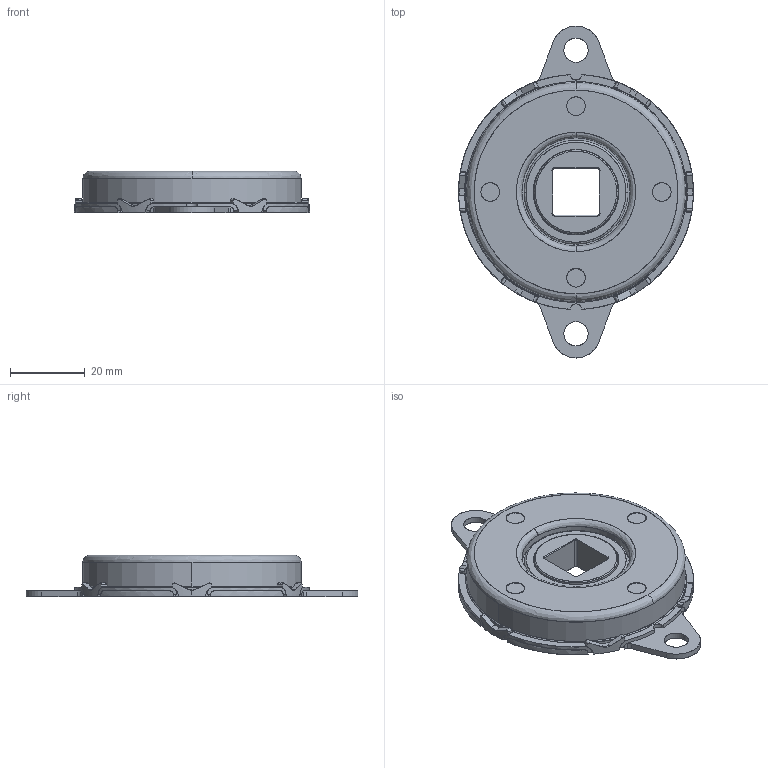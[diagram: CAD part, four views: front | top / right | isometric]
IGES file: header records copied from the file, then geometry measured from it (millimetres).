
Start section: SolidWorks IGES file using analytic representation for surfaces
Bounding box: 63 x 89 x 11.2 mm (x, y, z)
Surface area: 13110.3 mm2 (no closed solid volume)
Topology: 0 solids, 0 shells, 330 faces, 3576 edges, 3554 vertices
Faces by surface type: bspline 170, revolution 160
